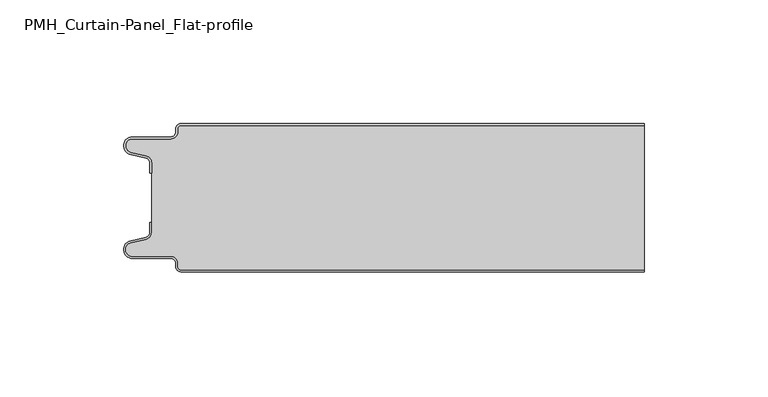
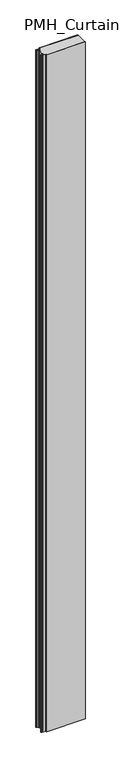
"""IFC4 building model written with IfcOpenShell, lengths in millimetres: plate geometry, PMH_Curtain-Panel_Flat-profile : ACH_PMH_Stone-wool-Panel_60M."""

from ifc_helpers import new_model, si_unit, point, frame_2d, origin, origin_with_axes, place, context, project, spatial, polyline, circle_curve, trimmed, segment, composite_curve, outline, extrude, source, transform, mapped, element, save


def pmh_curtain_panel_flat_profile_66ccdea5(model_context):
    return source(origin(), model_context, "Body", "SweptSolid", [
        extrude(outline(composite_curve([segment(trimmed(circle_curve(frame_2d((-87.4, -2.0)), 1.2), [point((-87.4, -0.8))], [point((-88.6, -2.0))], True, "CARTESIAN"), True, "CONTINUOUS"), segment(polyline([(-88.6, -2.0), (-88.6, -3.4)]), True, "CONTINUOUS"), segment(trimmed(circle_curve(frame_2d((-91.4, -3.4)), 2.8), [point((-88.6, -3.4))], [point((-91.4, -6.2))], False, "CARTESIAN"), True, "CONTINUOUS"), segment(polyline([(-91.4, -6.2), (-106.9, -6.2)]), True, "CONTINUOUS"), segment(trimmed(circle_curve(frame_2d((-106.9, -9.0)), 2.8), [point((-106.9, -6.2))], [point((-107.529863, -11.7282362))], True, "CARTESIAN"), True, "CONTINUOUS"), segment(polyline([(-107.529863, -11.7282362), (-101.370137, -13.150321)]), True, "CONTINUOUS"), segment(trimmed(circle_curve(frame_2d((-102.0, -15.878557)), 2.8), [point((-101.370137, -13.150321))], [point((-99.2, -15.878557))], False, "CARTESIAN"), True, "CONTINUOUS"), segment(polyline([(-99.2, -15.878557), (-99.2, -20.0), (-100.0, -20.0), (-100.0, -15.878557)]), True, "CONTINUOUS"), segment(trimmed(circle_curve(frame_2d((-102.0, -15.878557)), 2.0), [point((-100.0, -15.878557))], [point((-101.5500978, -13.9298169))], True, "CARTESIAN"), True, "CONTINUOUS"), segment(polyline([(-101.5500978, -13.9298169), (-107.7098239, -12.507732)]), True, "CONTINUOUS"), segment(trimmed(circle_curve(frame_2d((-106.9, -9.0)), 3.6), [point((-107.7098239, -12.507732))], [point((-106.9, -5.4))], False, "CARTESIAN"), True, "CONTINUOUS"), segment(polyline([(-106.9, -5.4), (-91.4, -5.4)]), True, "CONTINUOUS"), segment(trimmed(circle_curve(frame_2d((-91.4, -3.4)), 2.0), [point((-91.4, -5.4))], [point((-89.4, -3.4))], True, "CARTESIAN"), True, "CONTINUOUS"), segment(polyline([(-89.4, -3.4), (-89.4, -2.0)]), True, "CONTINUOUS"), segment(trimmed(circle_curve(frame_2d((-87.4, -2.0)), 2.0), [point((-89.4, -2.0))], [point((-87.4, 0.0))], False, "CARTESIAN"), True, "CONTINUOUS"), segment(polyline([(-87.4, 0.0), (100.0, 0.0), (100.0, -0.8), (-87.4, -0.8)]), True, "CONTINUOUS")], self_intersect=False)), origin_with_axes(), (0.0, 0.0, 1.0), 3500.0),
        extrude(outline(composite_curve([segment(polyline([(-99.2, -44.1214426), (-99.2, -15.8785573)]), True, "CONTINUOUS"), segment(trimmed(circle_curve(frame_2d((-102.0, -15.8785573)), 2.8), [point((-99.2, -15.8785573))], [point((-101.370137, -13.1503212))], True, "CARTESIAN"), True, "CONTINUOUS"), segment(polyline([(-101.370137, -13.1503212), (-107.5298631, -11.7282362)]), True, "CONTINUOUS"), segment(trimmed(circle_curve(frame_2d((-106.9, -9.0)), 2.8), [point((-107.5298631, -11.7282362))], [point((-106.9, -6.2))], False, "CARTESIAN"), True, "CONTINUOUS"), segment(polyline([(-106.9, -6.2), (-91.4000001, -6.2)]), True, "CONTINUOUS"), segment(trimmed(circle_curve(frame_2d((-91.4000001, -3.4)), 2.8), [point((-91.4000001, -6.2))], [point((-88.6000001, -3.4))], True, "CARTESIAN"), True, "CONTINUOUS"), segment(polyline([(-88.6000001, -3.4), (-88.6000001, -2.0)]), True, "CONTINUOUS"), segment(trimmed(circle_curve(frame_2d((-87.4000001, -2.0)), 1.2), [point((-88.6000001, -2.0))], [point((-87.4000001, -0.8))], False, "CARTESIAN"), True, "CONTINUOUS"), segment(polyline([(-87.4000001, -0.8), (100.0, -0.8), (100.0, -59.2), (-87.4000001, -59.2)]), True, "CONTINUOUS"), segment(trimmed(circle_curve(frame_2d((-87.4000001, -58.0)), 1.2), [point((-87.4000001, -59.2))], [point((-88.6000001, -58.0))], False, "CARTESIAN"), True, "CONTINUOUS"), segment(polyline([(-88.6000001, -58.0), (-88.6000001, -56.6)]), True, "CONTINUOUS"), segment(trimmed(circle_curve(frame_2d((-91.4000001, -56.6)), 2.8), [point((-88.6000001, -56.6))], [point((-91.4000001, -53.8))], True, "CARTESIAN"), True, "CONTINUOUS"), segment(polyline([(-91.4000001, -53.8), (-106.9, -53.8)]), True, "CONTINUOUS"), segment(trimmed(circle_curve(frame_2d((-106.9, -51.0)), 2.8), [point((-106.9, -53.8))], [point((-107.5298631, -48.2717638))], False, "CARTESIAN"), True, "CONTINUOUS"), segment(polyline([(-107.5298631, -48.2717638), (-101.370137, -46.8496788)]), True, "CONTINUOUS"), segment(trimmed(circle_curve(frame_2d((-102.0, -44.1214426)), 2.8), [point((-101.370137, -46.8496788))], [point((-99.2, -44.1214426))], True, "CARTESIAN"), True, "CONTINUOUS")], self_intersect=False)), origin_with_axes(), (0.0, 0.0, 1.0), 3500.0),
        extrude(outline(composite_curve([segment(trimmed(circle_curve(frame_2d((-87.4, -58.0)), 2.0), [point((-87.4, -60.0))], [point((-89.4, -58.0))], False, "CARTESIAN"), True, "CONTINUOUS"), segment(polyline([(-89.4, -58.0), (-89.4, -56.6)]), True, "CONTINUOUS"), segment(trimmed(circle_curve(frame_2d((-91.4, -56.6)), 2.0), [point((-89.4, -56.6))], [point((-91.4, -54.6))], True, "CARTESIAN"), True, "CONTINUOUS"), segment(polyline([(-91.4, -54.6), (-106.9, -54.6)]), True, "CONTINUOUS"), segment(trimmed(circle_curve(frame_2d((-106.9, -51.0)), 3.6), [point((-106.9, -54.6))], [point((-107.7098239, -47.4922678))], False, "CARTESIAN"), True, "CONTINUOUS"), segment(polyline([(-107.7098239, -47.4922678), (-101.5500979, -46.070183)]), True, "CONTINUOUS"), segment(trimmed(circle_curve(frame_2d((-102.0, -44.121443)), 2.0), [point((-101.5500979, -46.070183))], [point((-100.0, -44.121443))], True, "CARTESIAN"), True, "CONTINUOUS"), segment(polyline([(-100.0, -44.121443), (-100.0, -40.0), (-99.2, -40.0), (-99.2, -44.121443)]), True, "CONTINUOUS"), segment(trimmed(circle_curve(frame_2d((-102.0, -44.121443)), 2.8), [point((-99.2, -44.121443))], [point((-101.370137, -46.8496792))], False, "CARTESIAN"), True, "CONTINUOUS"), segment(polyline([(-101.370137, -46.8496792), (-107.529863, -48.271764)]), True, "CONTINUOUS"), segment(trimmed(circle_curve(frame_2d((-106.9, -51.0)), 2.8), [point((-107.529863, -48.271764))], [point((-106.9, -53.8))], True, "CARTESIAN"), True, "CONTINUOUS"), segment(polyline([(-106.9, -53.8), (-91.4, -53.8)]), True, "CONTINUOUS"), segment(trimmed(circle_curve(frame_2d((-91.4, -56.6)), 2.8), [point((-91.4, -53.8))], [point((-88.6, -56.6))], False, "CARTESIAN"), True, "CONTINUOUS"), segment(polyline([(-88.6, -56.6), (-88.6, -58.0)]), True, "CONTINUOUS"), segment(trimmed(circle_curve(frame_2d((-87.4, -58.0)), 1.2), [point((-88.6, -58.0))], [point((-87.4, -59.2))], True, "CARTESIAN"), True, "CONTINUOUS"), segment(polyline([(-87.4, -59.2), (100.0, -59.2), (100.0, -60.0), (-87.4, -60.0)]), True, "CONTINUOUS")], self_intersect=False)), origin_with_axes(), (0.0, 0.0, 1.0), 3500.0),
    ])


if __name__ == "__main__":
    model = new_model("IFC4")
    model_context = context("Model", 3, world=origin())
    ifc_project = project(units=[si_unit("LENGTHUNIT", "METRE", prefix="MILLI")], contexts=[model_context])
    site = spatial("IfcSite", under=ifc_project)
    building = spatial("IfcBuilding", under=site)
    placement = place(None, origin())
    pmh_curtain_panel_flat_profile_shape = pmh_curtain_panel_flat_profile_66ccdea5(model_context)
    element("IfcPlate", 1, ObjectType="PMH_Curtain-Panel_Flat-profile : ACH_PMH_Stone-wool-Panel_60M", at=placement, inside=building, context=model_context, shape_type="MappedRepresentation", body=[
        mapped(pmh_curtain_panel_flat_profile_shape, transform((0.0, 0.0, 0.0), x_axis=(1.0, 0.0, 0.0), y_axis=(0.0, 1.0, 0.0), z_axis=(0.0, 0.0, 1.0))),
    ])
    save(model, "model.ifc")
